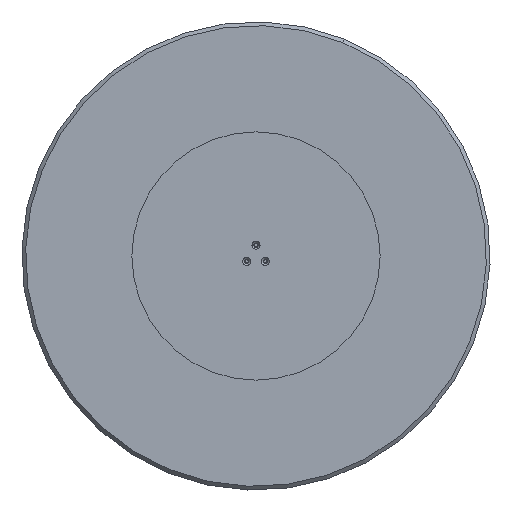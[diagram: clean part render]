
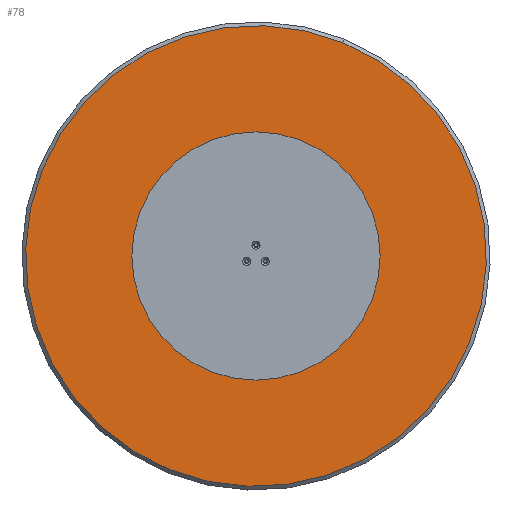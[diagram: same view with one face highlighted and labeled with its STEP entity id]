
A CAD part, front view. The second image highlights one B-rep face of the part: STEP entity #78.
In plain terms, the highlighted planar face has unit normal (0, -1, 0).
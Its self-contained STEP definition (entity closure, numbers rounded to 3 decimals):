
#78 = ADVANCED_FACE ( 'NONE', ( #8146 ), #3034, .T. ) ;
#420 = ORIENTED_EDGE ( 'NONE', *, *, #8165, .T. ) ;
#1036 = CARTESIAN_POINT ( 'NONE',  ( 0., 0., -492. ) ) ;
#1156 = DIRECTION ( 'NONE',  ( 0., 0., -1. ) ) ;
#1264 = DIRECTION ( 'NONE',  ( 0., -1., 0. ) ) ;
#1703 = CARTESIAN_POINT ( 'NONE',  ( 0., 0., 492. ) ) ;
#1727 = EDGE_LOOP ( 'NONE', ( #420, #4675 ) ) ;
#1769 = AXIS2_PLACEMENT_3D ( 'NONE', #5598, #6876, #1156 ) ;
#2464 = CIRCLE ( 'NONE', #3127, 492. ) ;
#2669 = VERTEX_POINT ( 'NONE', #1036 ) ;
#3034 = PLANE ( 'NONE',  #1769 ) ;
#3127 = AXIS2_PLACEMENT_3D ( 'NONE', #6433, #1264, #6395 ) ;
#3195 = DIRECTION ( 'NONE',  ( 0., -1., 0. ) ) ;
#4476 = AXIS2_PLACEMENT_3D ( 'NONE', #6942, #3195, #4966 ) ;
#4675 = ORIENTED_EDGE ( 'NONE', *, *, #7290, .T. ) ;
#4966 = DIRECTION ( 'NONE',  ( 0., 0., -1. ) ) ;
#5598 = CARTESIAN_POINT ( 'NONE',  ( 0., 0., 0. ) ) ;
#6395 = DIRECTION ( 'NONE',  ( 0., 0., -1. ) ) ;
#6433 = CARTESIAN_POINT ( 'NONE',  ( 0., 0., 0. ) ) ;
#6876 = DIRECTION ( 'NONE',  ( 0., -1., 0. ) ) ;
#6942 = CARTESIAN_POINT ( 'NONE',  ( 0., 0., 0. ) ) ;
#7290 = EDGE_CURVE ( 'NONE', #2669, #8025, #2464, .T. ) ;
#7391 = CIRCLE ( 'NONE', #4476, 492. ) ;
#8025 = VERTEX_POINT ( 'NONE', #1703 ) ;
#8146 = FACE_OUTER_BOUND ( 'NONE', #1727, .T. ) ;
#8165 = EDGE_CURVE ( 'NONE', #8025, #2669, #7391, .T. ) ;
